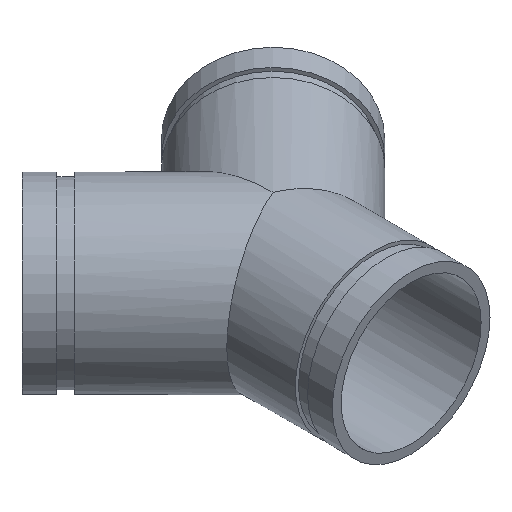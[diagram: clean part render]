
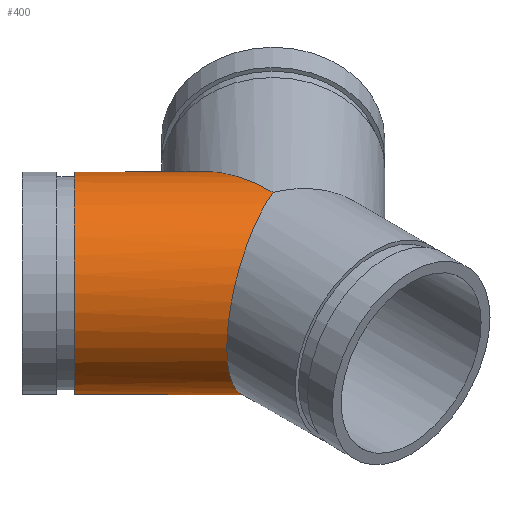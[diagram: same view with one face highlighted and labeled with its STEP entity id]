
A CAD part, isometric view. The second image highlights one B-rep face of the part: STEP entity #400.
In plain terms, the highlighted cylindrical face has radius 50.8 mm (diameter 101.6 mm), a full revolution.
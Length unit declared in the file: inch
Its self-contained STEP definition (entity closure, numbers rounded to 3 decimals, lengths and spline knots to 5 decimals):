
#76=FACE_OUTER_BOUND('',#103,.T.);
#103=EDGE_LOOP('',(#314,#315,#316,#317,#318,#319,#320,#321));
#118=ELLIPSE('',#470,2.82843,2.);
#119=ELLIPSE('',#471,2.16478,2.);
#120=ELLIPSE('',#472,2.16478,2.);
#121=ELLIPSE('',#473,2.82843,2.);
#131=LINE('',#735,#143);
#143=VECTOR('',#595,2.);
#156=CIRCLE('',#446,2.);
#157=CIRCLE('',#447,2.);
#186=VERTEX_POINT('',#686);
#187=VERTEX_POINT('',#687);
#202=VERTEX_POINT('',#730);
#203=VERTEX_POINT('',#731);
#204=VERTEX_POINT('',#733);
#205=VERTEX_POINT('',#736);
#223=EDGE_CURVE('',#186,#187,#156,.T.);
#224=EDGE_CURVE('',#187,#186,#157,.T.);
#243=EDGE_CURVE('',#202,#203,#118,.T.);
#244=EDGE_CURVE('',#204,#202,#119,.T.);
#245=EDGE_CURVE('',#204,#187,#131,.T.);
#246=EDGE_CURVE('',#205,#204,#120,.T.);
#247=EDGE_CURVE('',#203,#205,#121,.T.);
#314=ORIENTED_EDGE('',*,*,#243,.F.);
#315=ORIENTED_EDGE('',*,*,#244,.F.);
#316=ORIENTED_EDGE('',*,*,#245,.T.);
#317=ORIENTED_EDGE('',*,*,#224,.T.);
#318=ORIENTED_EDGE('',*,*,#223,.T.);
#319=ORIENTED_EDGE('',*,*,#245,.F.);
#320=ORIENTED_EDGE('',*,*,#246,.F.);
#321=ORIENTED_EDGE('',*,*,#247,.F.);
#359=CYLINDRICAL_SURFACE('',#469,2.);
#400=ADVANCED_FACE('',(#76),#359,.T.);
#446=AXIS2_PLACEMENT_3D('',#688,#539,#540);
#447=AXIS2_PLACEMENT_3D('',#689,#541,#542);
#469=AXIS2_PLACEMENT_3D('',#729,#589,#590);
#470=AXIS2_PLACEMENT_3D('',#732,#591,#592);
#471=AXIS2_PLACEMENT_3D('',#734,#593,#594);
#472=AXIS2_PLACEMENT_3D('',#737,#596,#597);
#473=AXIS2_PLACEMENT_3D('',#738,#598,#599);
#539=DIRECTION('center_axis',(0.707,-0.707,0.));
#540=DIRECTION('ref_axis',(0.707,0.707,0.));
#541=DIRECTION('center_axis',(0.707,-0.707,0.));
#542=DIRECTION('ref_axis',(0.707,0.707,0.));
#589=DIRECTION('center_axis',(0.707,-0.707,0.));
#590=DIRECTION('ref_axis',(0.707,0.707,0.));
#591=DIRECTION('center_axis',(1.,0.,0.));
#592=DIRECTION('ref_axis',(0.,1.,0.));
#593=DIRECTION('center_axis',(0.383,-0.924,0.));
#594=DIRECTION('ref_axis',(0.924,0.383,0.));
#595=DIRECTION('',(-0.707,0.707,0.));
#596=DIRECTION('center_axis',(0.383,-0.924,0.));
#597=DIRECTION('ref_axis',(0.924,0.383,0.));
#598=DIRECTION('center_axis',(1.,0.,0.));
#599=DIRECTION('ref_axis',(0.,1.,0.));
#686=CARTESIAN_POINT('',(-1.1045,3.93293,0.));
#687=CARTESIAN_POINT('',(-3.93293,1.1045,0.));
#688=CARTESIAN_POINT('Origin',(-2.51871,2.51871,0.));
#689=CARTESIAN_POINT('Origin',(-2.51871,2.51871,0.));
#729=CARTESIAN_POINT('Origin',(-3.18198,3.18198,0.));
#730=CARTESIAN_POINT('',(0.,0.,-2.));
#731=CARTESIAN_POINT('',(0.,2.82843,0.));
#732=CARTESIAN_POINT('Origin',(0.,0.,0.));
#733=CARTESIAN_POINT('',(-2.,-0.82843,0.));
#734=CARTESIAN_POINT('Origin',(0.,0.,0.));
#735=CARTESIAN_POINT('',(-4.59619,1.76777,0.));
#736=CARTESIAN_POINT('',(0.,0.,2.));
#737=CARTESIAN_POINT('Origin',(0.,0.,0.));
#738=CARTESIAN_POINT('Origin',(0.,0.,0.));
